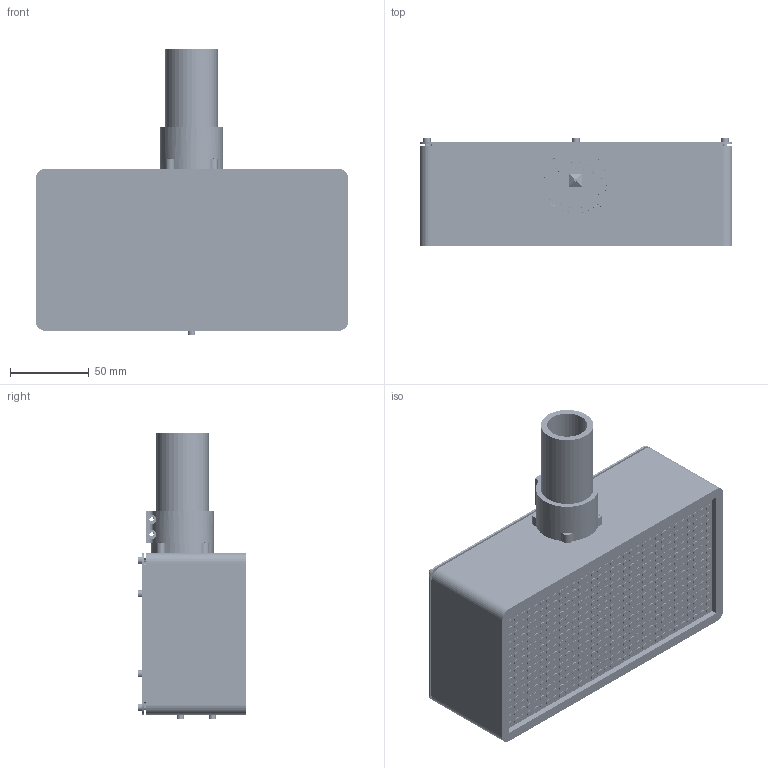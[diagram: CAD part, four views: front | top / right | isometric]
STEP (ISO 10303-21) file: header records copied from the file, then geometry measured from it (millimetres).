
FILE_DESCRIPTION (( 'STEP AP214' ), '1' );
FILE_NAME ('Head Assembly.STEP', '2018-04-03T23:00:09', ( '' ), ( '' ), 'SwSTEP 2.0', 'SolidWorks 2016', '' );
FILE_SCHEMA (( 'AUTOMOTIVE_DESIGN' ));
Length unit declared in the file: inch
Products named in the file (15): Head Assembly; 6-32_SHCS_6-32 SHCS X .250; Head left back; Pin Header 1x2 TH Pitch 2.54mm; Head left side_Left Side; 3in PVC Pipe; Head right side_Right Side; LED Matrix; 4-40_SHCS_4-40 SHCS X .250; Head right back; Pin Header 1x4 TH Pitch 2.54mm; logic shifter board; Logic Shifter Board w components; PVC Clamping Hub; hex_nut_#4-40
Assembly tree (37 placements, depth 3):
  Head Assembly
    Head left back
    Head left side_Left Side
    Head right back
    Head right side_Right Side
    4-40_SHCS_4-40 SHCS X .250  x12
    hex_nut_#4-40  x4
    LED Matrix
    PVC Clamping Hub
    6-32_SHCS_6-32 SHCS X .250  x4
    3in PVC Pipe
    Logic Shifter Board w components
      logic shifter board
      Pin Header 1x4 TH Pitch 2.54mm  x7
      Pin Header 1x2 TH Pitch 2.54mm
Bounding box: 198.69 x 68.88 x 181.91 mm (x, y, z)
Volume: 436314.3 mm3; surface area: 219682.2 mm2
Topology: 30 solids, 90 shells, 4812 faces, 11745 edges, 7570 vertices
Faces by surface type: plane 2265, cylinder 2181, cone 308, bspline 58
Entity records: 131082 total; most frequent: CARTESIAN_POINT 44489, DIRECTION 14092, ORIENTED_EDGE 13130, EDGE_CURVE 6587, AXIS2_PLACEMENT_3D 5442, VERTEX_POINT 4333, EDGE_LOOP 3560, LINE 3208
